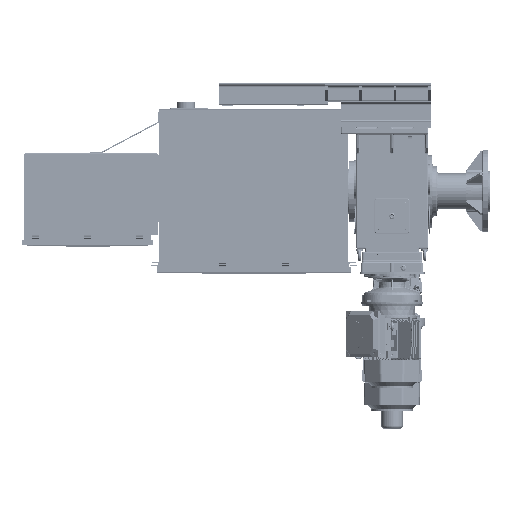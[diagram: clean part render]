
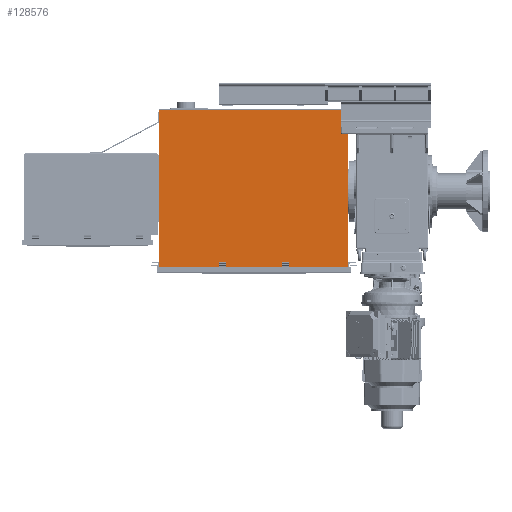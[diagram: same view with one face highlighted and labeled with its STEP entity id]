
A CAD part, top view. The second image highlights one B-rep face of the part: STEP entity #128576.
In plain terms, the highlighted planar face has unit normal (0, 0, 1).
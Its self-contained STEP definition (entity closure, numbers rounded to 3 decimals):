
#5032=FACE_BOUND('',#19452,.T.);
#5033=FACE_BOUND('',#19453,.T.);
#7344=PLANE('',#137425);
#11473=FACE_OUTER_BOUND('',#19451,.T.);
#19451=EDGE_LOOP('',(#90496,#90497,#90498,#90499,#90500,#90501,#90502,#90503,
#90504,#90505,#90506,#90507,#90508,#90509,#90510,#90511));
#19452=EDGE_LOOP('',(#90512,#90513,#90514,#90515));
#19453=EDGE_LOOP('',(#90516,#90517,#90518,#90519));
#28918=LINE('',#199302,#38289);
#28935=LINE('',#199347,#38306);
#28937=LINE('',#199351,#38308);
#28938=LINE('',#199353,#38309);
#28939=LINE('',#199362,#38310);
#28956=LINE('',#199407,#38327);
#28958=LINE('',#199411,#38329);
#28959=LINE('',#199413,#38330);
#29260=LINE('',#200317,#38631);
#29318=LINE('',#200499,#38689);
#29319=LINE('',#200500,#38690);
#29320=LINE('',#200501,#38691);
#29321=LINE('',#200502,#38692);
#29322=LINE('',#200504,#38693);
#29323=LINE('',#200506,#38694);
#29324=LINE('',#200508,#38695);
#29325=LINE('',#200510,#38696);
#29326=LINE('',#200512,#38697);
#29327=LINE('',#200514,#38698);
#29328=LINE('',#200516,#38699);
#29329=LINE('',#200518,#38700);
#29330=LINE('',#200520,#38701);
#29331=LINE('',#200522,#38702);
#29332=LINE('',#200523,#38703);
#38289=VECTOR('',#156134,40.);
#38306=VECTOR('',#156177,40.);
#38308=VECTOR('',#156181,40.);
#38309=VECTOR('',#156184,40.);
#38310=VECTOR('',#156193,40.);
#38327=VECTOR('',#156236,40.);
#38329=VECTOR('',#156240,40.);
#38330=VECTOR('',#156243,40.);
#38631=VECTOR('',#157096,38.828);
#38689=VECTOR('',#157252,38.828);
#38690=VECTOR('',#157253,25.);
#38691=VECTOR('',#157254,71.016);
#38692=VECTOR('',#157255,1051.);
#38693=VECTOR('',#157256,894.016);
#38694=VECTOR('',#157257,51.016);
#38695=VECTOR('',#157258,2.976);
#38696=VECTOR('',#157259,1.984);
#38697=VECTOR('',#157260,0.992);
#38698=VECTOR('',#157261,945.);
#38699=VECTOR('',#157262,0.992);
#38700=VECTOR('',#157263,1.984);
#38701=VECTOR('',#157264,2.976);
#38702=VECTOR('',#157265,51.016);
#38703=VECTOR('',#157266,798.);
#54160=VERTEX_POINT('',#199300);
#54161=VERTEX_POINT('',#199301);
#54176=VERTEX_POINT('',#199345);
#54177=VERTEX_POINT('',#199349);
#54180=VERTEX_POINT('',#199360);
#54181=VERTEX_POINT('',#199361);
#54196=VERTEX_POINT('',#199405);
#54197=VERTEX_POINT('',#199409);
#54363=VERTEX_POINT('',#199907);
#54523=VERTEX_POINT('',#200314);
#54524=VERTEX_POINT('',#200316);
#54528=VERTEX_POINT('',#200326);
#54580=VERTEX_POINT('',#200497);
#54581=VERTEX_POINT('',#200498);
#54582=VERTEX_POINT('',#200503);
#54583=VERTEX_POINT('',#200505);
#54584=VERTEX_POINT('',#200507);
#54585=VERTEX_POINT('',#200509);
#54586=VERTEX_POINT('',#200511);
#54587=VERTEX_POINT('',#200513);
#54588=VERTEX_POINT('',#200515);
#54589=VERTEX_POINT('',#200517);
#54590=VERTEX_POINT('',#200519);
#54591=VERTEX_POINT('',#200521);
#67277=EDGE_CURVE('',#54160,#54161,#28918,.T.);
#67300=EDGE_CURVE('',#54161,#54176,#28935,.T.);
#67302=EDGE_CURVE('',#54177,#54160,#28937,.T.);
#67303=EDGE_CURVE('',#54176,#54177,#28938,.T.);
#67306=EDGE_CURVE('',#54180,#54181,#28939,.T.);
#67329=EDGE_CURVE('',#54181,#54196,#28956,.T.);
#67331=EDGE_CURVE('',#54197,#54180,#28958,.T.);
#67332=EDGE_CURVE('',#54196,#54197,#28959,.T.);
#67763=EDGE_CURVE('',#54523,#54524,#29260,.T.);
#67846=EDGE_CURVE('',#54580,#54581,#29318,.T.);
#67847=EDGE_CURVE('',#54524,#54580,#29319,.T.);
#67848=EDGE_CURVE('',#54528,#54523,#29320,.T.);
#67849=EDGE_CURVE('',#54528,#54363,#29321,.T.);
#67850=EDGE_CURVE('',#54582,#54363,#29322,.T.);
#67851=EDGE_CURVE('',#54583,#54582,#29323,.T.);
#67852=EDGE_CURVE('',#54583,#54584,#29324,.T.);
#67853=EDGE_CURVE('',#54584,#54585,#29325,.T.);
#67854=EDGE_CURVE('',#54585,#54586,#29326,.T.);
#67855=EDGE_CURVE('',#54586,#54587,#29327,.T.);
#67856=EDGE_CURVE('',#54587,#54588,#29328,.T.);
#67857=EDGE_CURVE('',#54588,#54589,#29329,.T.);
#67858=EDGE_CURVE('',#54589,#54590,#29330,.T.);
#67859=EDGE_CURVE('',#54591,#54590,#29331,.T.);
#67860=EDGE_CURVE('',#54581,#54591,#29332,.T.);
#90496=ORIENTED_EDGE('',*,*,#67846,.F.);
#90497=ORIENTED_EDGE('',*,*,#67847,.F.);
#90498=ORIENTED_EDGE('',*,*,#67763,.F.);
#90499=ORIENTED_EDGE('',*,*,#67848,.F.);
#90500=ORIENTED_EDGE('',*,*,#67849,.T.);
#90501=ORIENTED_EDGE('',*,*,#67850,.F.);
#90502=ORIENTED_EDGE('',*,*,#67851,.F.);
#90503=ORIENTED_EDGE('',*,*,#67852,.T.);
#90504=ORIENTED_EDGE('',*,*,#67853,.T.);
#90505=ORIENTED_EDGE('',*,*,#67854,.T.);
#90506=ORIENTED_EDGE('',*,*,#67855,.T.);
#90507=ORIENTED_EDGE('',*,*,#67856,.T.);
#90508=ORIENTED_EDGE('',*,*,#67857,.T.);
#90509=ORIENTED_EDGE('',*,*,#67858,.T.);
#90510=ORIENTED_EDGE('',*,*,#67859,.F.);
#90511=ORIENTED_EDGE('',*,*,#67860,.F.);
#90512=ORIENTED_EDGE('',*,*,#67277,.T.);
#90513=ORIENTED_EDGE('',*,*,#67300,.T.);
#90514=ORIENTED_EDGE('',*,*,#67303,.T.);
#90515=ORIENTED_EDGE('',*,*,#67302,.T.);
#90516=ORIENTED_EDGE('',*,*,#67306,.T.);
#90517=ORIENTED_EDGE('',*,*,#67329,.T.);
#90518=ORIENTED_EDGE('',*,*,#67332,.T.);
#90519=ORIENTED_EDGE('',*,*,#67331,.T.);
#128576=ADVANCED_FACE('',(#11473,#5032,#5033),#7344,.F.);
#137425=AXIS2_PLACEMENT_3D('',#200496,#157250,#157251);
#156134=DIRECTION('',(0.,1.,0.));
#156177=DIRECTION('',(1.,0.,0.));
#156181=DIRECTION('',(-1.,0.,0.));
#156184=DIRECTION('',(0.,-1.,0.));
#156193=DIRECTION('',(0.,1.,0.));
#156236=DIRECTION('',(1.,0.,0.));
#156240=DIRECTION('',(-1.,0.,0.));
#156243=DIRECTION('',(0.,-1.,0.));
#157096=DIRECTION('',(-1.,0.,0.));
#157250=DIRECTION('center_axis',(0.,0.,
-1.));
#157251=DIRECTION('ref_axis',(1.,0.,0.));
#157252=DIRECTION('',(1.,0.,0.));
#157253=DIRECTION('',(0.,-1.,0.));
#157254=DIRECTION('',(0.,-1.,0.));
#157255=DIRECTION('',(-1.,0.,0.));
#157256=DIRECTION('',(0.,1.,0.));
#157257=DIRECTION('',(-1.,0.,0.));
#157258=DIRECTION('',(0.,1.,0.));
#157259=DIRECTION('',(1.,0.,0.));
#157260=DIRECTION('',(0.,-1.,0.));
#157261=DIRECTION('',(1.,0.,0.));
#157262=DIRECTION('',(0.,1.,0.));
#157263=DIRECTION('',(1.,0.,0.));
#157264=DIRECTION('',(0.,-1.,0.));
#157265=DIRECTION('',(-1.,0.,0.));
#157266=DIRECTION('',(0.,-1.,0.));
#199300=CARTESIAN_POINT('',(-1177.182,-646.817,872.238));
#199301=CARTESIAN_POINT('',(-1177.182,-606.817,872.238));
#199302=CARTESIAN_POINT('',(-1177.182,-409.737,872.238));
#199345=CARTESIAN_POINT('',(-1137.182,-606.817,872.238));
#199347=CARTESIAN_POINT('',(-1069.682,-606.817,872.238));
#199349=CARTESIAN_POINT('',(-1137.182,-646.817,872.238));
#199351=CARTESIAN_POINT('',(-1069.682,-646.817,872.238));
#199353=CARTESIAN_POINT('',(-1137.182,-409.737,872.238));
#199360=CARTESIAN_POINT('',(-827.182,-646.817,872.238));
#199361=CARTESIAN_POINT('',(-827.182,-606.817,872.238));
#199362=CARTESIAN_POINT('',(-827.182,-409.737,872.238));
#199405=CARTESIAN_POINT('',(-787.182,-606.817,872.238));
#199407=CARTESIAN_POINT('',(-894.682,-606.817,872.238));
#199409=CARTESIAN_POINT('',(-787.182,-646.817,872.238));
#199411=CARTESIAN_POINT('',(-894.682,-646.817,872.238));
#199413=CARTESIAN_POINT('',(-787.182,-409.737,872.238));
#199907=CARTESIAN_POINT('',(-1507.682,241.483,872.238));
#200314=CARTESIAN_POINT('',(-456.682,170.466,872.238));
#200316=CARTESIAN_POINT('',(-495.511,170.466,872.238));
#200317=CARTESIAN_POINT('',(-738.847,170.466,872.238));
#200326=CARTESIAN_POINT('',(-456.682,241.483,872.238));
#200496=CARTESIAN_POINT('Origin',(-982.182,-200.782,872.238));
#200497=CARTESIAN_POINT('',(-495.511,145.466,872.238));
#200498=CARTESIAN_POINT('',(-456.682,145.466,872.238));
#200499=CARTESIAN_POINT('',(-738.847,145.466,872.238));
#200500=CARTESIAN_POINT('',(-495.511,14.842,872.238));
#200501=CARTESIAN_POINT('',(-456.682,241.483,872.238));
#200502=CARTESIAN_POINT('',(-982.182,241.483,872.238));
#200503=CARTESIAN_POINT('',(-1507.682,-652.534,872.238));
#200504=CARTESIAN_POINT('',(-1507.682,250.457,872.238));
#200505=CARTESIAN_POINT('',(-1456.666,-652.534,872.238));
#200506=CARTESIAN_POINT('',(-456.682,-652.534,872.238));
#200507=CARTESIAN_POINT('',(-1456.666,-649.558,872.238));
#200508=CARTESIAN_POINT('',(-1456.666,-425.17,872.238));
#200509=CARTESIAN_POINT('',(-1454.682,-649.558,872.238));
#200510=CARTESIAN_POINT('',(-1218.432,-649.558,872.238));
#200511=CARTESIAN_POINT('',(-1454.682,-650.55,872.238));
#200512=CARTESIAN_POINT('',(-1454.682,-426.658,872.238));
#200513=CARTESIAN_POINT('',(-509.682,-650.55,872.238));
#200514=CARTESIAN_POINT('',(-745.932,-650.55,872.238));
#200515=CARTESIAN_POINT('',(-509.682,-649.558,872.238));
#200516=CARTESIAN_POINT('',(-509.682,-425.17,872.238));
#200517=CARTESIAN_POINT('',(-507.699,-649.558,872.238));
#200518=CARTESIAN_POINT('',(-744.94,-649.558,872.238));
#200519=CARTESIAN_POINT('',(-507.699,-652.534,872.238));
#200520=CARTESIAN_POINT('',(-507.699,-426.658,872.238));
#200521=CARTESIAN_POINT('',(-456.682,-652.534,872.238));
#200522=CARTESIAN_POINT('',(-456.682,-652.534,872.238));
#200523=CARTESIAN_POINT('',(-456.682,241.483,872.238));
